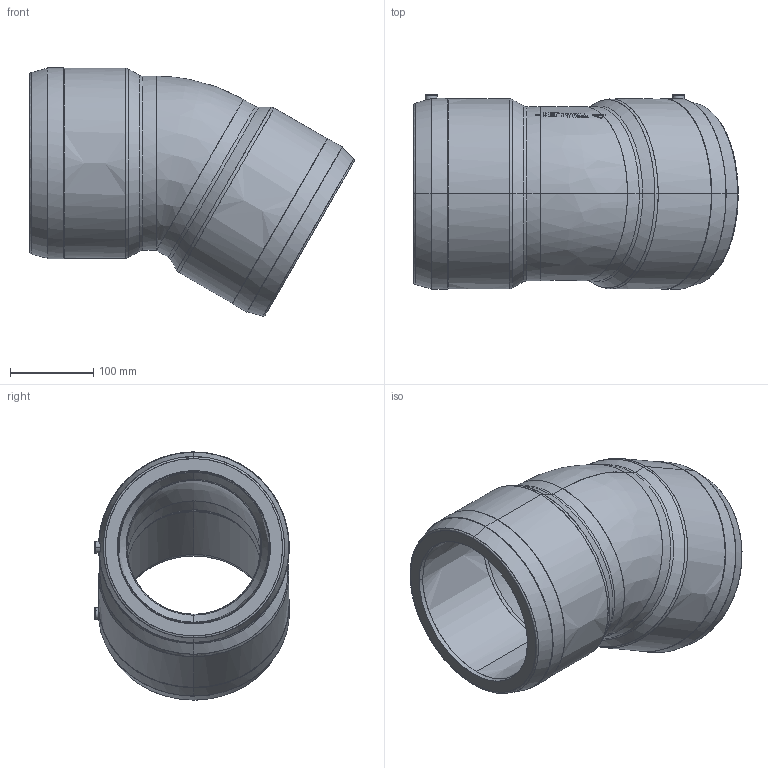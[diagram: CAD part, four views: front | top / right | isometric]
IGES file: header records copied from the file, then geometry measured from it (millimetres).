
Start section:  PTC IGES file: w30_d180_01.igs
Global section: file name: w30_d180_01.igs; native system: Pro/ENGINEER by Parametric Technology Corporation; preprocessor: 2011490; author: mtunjic; organization: Unknown; date: 20130812.095112; units: millimetre
Bounding box: 389.45 x 233.5 x 297.94 mm (x, y, z)
Surface area: 476230.3 mm2 (no closed solid volume)
Topology: 0 solids, 0 shells, 293 faces, 1462 edges, 1460 vertices
Faces by surface type: bspline 293
